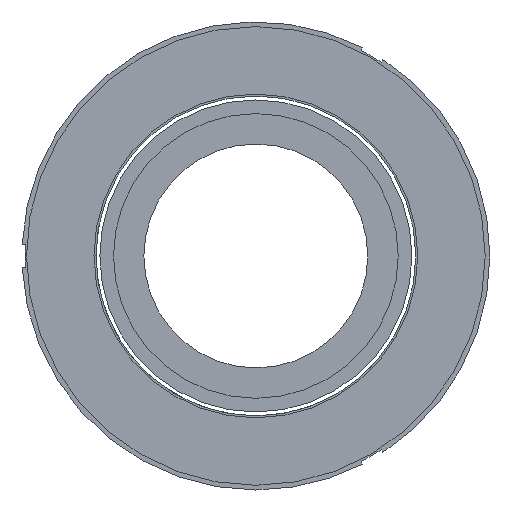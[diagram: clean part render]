
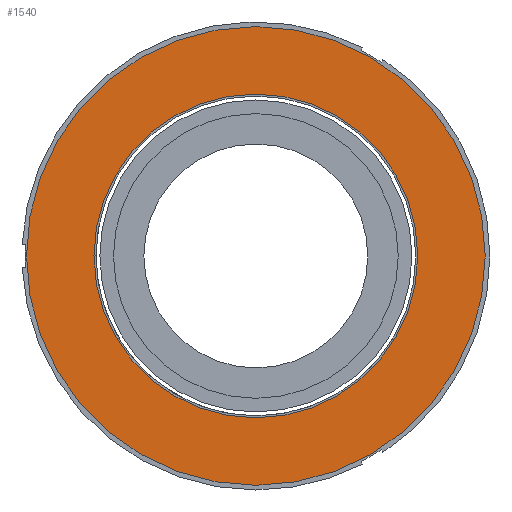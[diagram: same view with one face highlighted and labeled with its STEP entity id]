
A CAD part, front view. The second image highlights one B-rep face of the part: STEP entity #1540.
In plain terms, the highlighted planar face has unit normal (0, -1, 0).
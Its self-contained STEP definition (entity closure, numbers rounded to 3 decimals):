
#8 = DIRECTION ( 'NONE',  ( 0., 0., -1. ) ) ;
#17 = CARTESIAN_POINT ( 'NONE',  ( 0., 1.473, -29.4 ) ) ;
#115 = VERTEX_POINT ( 'NONE', #2423 ) ;
#153 = FACE_BOUND ( 'NONE', #526, .T. ) ;
#185 = DIRECTION ( 'NONE',  ( 0., 1., 0. ) ) ;
#317 = DIRECTION ( 'NONE',  ( 0., -1., 0. ) ) ;
#362 = DIRECTION ( 'NONE',  ( 0., -1., 0. ) ) ;
#384 = AXIS2_PLACEMENT_3D ( 'NONE', #2152, #362, #834 ) ;
#415 = DIRECTION ( 'NONE',  ( 0., -1., 0. ) ) ;
#459 = DIRECTION ( 'NONE',  ( 0., 0., 1. ) ) ;
#526 = EDGE_LOOP ( 'NONE', ( #1316, #1635 ) ) ;
#533 = EDGE_CURVE ( 'NONE', #1007, #1868, #869, .T. ) ;
#540 = CIRCLE ( 'NONE', #1913, 20.75 ) ;
#561 = CIRCLE ( 'NONE', #1970, 29.4 ) ;
#588 = VERTEX_POINT ( 'NONE', #2797 ) ;
#689 = AXIS2_PLACEMENT_3D ( 'NONE', #1769, #185, #459 ) ;
#694 = EDGE_CURVE ( 'NONE', #588, #115, #1334, .T. ) ;
#753 = CARTESIAN_POINT ( 'NONE',  ( 0., 1.473, 0. ) ) ;
#768 = FACE_OUTER_BOUND ( 'NONE', #2132, .T. ) ;
#834 = DIRECTION ( 'NONE',  ( 0., 0., -1. ) ) ;
#866 = DIRECTION ( 'NONE',  ( 0., 0., -1. ) ) ;
#869 = CIRCLE ( 'NONE', #2158, 29.4 ) ;
#1007 = VERTEX_POINT ( 'NONE', #1329 ) ;
#1082 = EDGE_CURVE ( 'NONE', #1868, #1007, #561, .T. ) ;
#1316 = ORIENTED_EDGE ( 'NONE', *, *, #2731, .F. ) ;
#1329 = CARTESIAN_POINT ( 'NONE',  ( 0., 1.473, 29.4 ) ) ;
#1334 = CIRCLE ( 'NONE', #384, 20.75 ) ;
#1493 = ORIENTED_EDGE ( 'NONE', *, *, #1082, .T. ) ;
#1540 = ADVANCED_FACE ( 'NONE', ( #153, #768 ), #2620, .F. ) ;
#1563 = ORIENTED_EDGE ( 'NONE', *, *, #533, .T. ) ;
#1635 = ORIENTED_EDGE ( 'NONE', *, *, #694, .F. ) ;
#1746 = CARTESIAN_POINT ( 'NONE',  ( 0., 1.473, 0. ) ) ;
#1769 = CARTESIAN_POINT ( 'NONE',  ( -20.75, 1.473, 0. ) ) ;
#1868 = VERTEX_POINT ( 'NONE', #17 ) ;
#1913 = AXIS2_PLACEMENT_3D ( 'NONE', #1746, #415, #866 ) ;
#1970 = AXIS2_PLACEMENT_3D ( 'NONE', #2022, #2036, #8 ) ;
#2022 = CARTESIAN_POINT ( 'NONE',  ( 0., 1.473, 0. ) ) ;
#2036 = DIRECTION ( 'NONE',  ( 0., -1., 0. ) ) ;
#2132 = EDGE_LOOP ( 'NONE', ( #1493, #1563 ) ) ;
#2152 = CARTESIAN_POINT ( 'NONE',  ( 0., 1.473, 0. ) ) ;
#2158 = AXIS2_PLACEMENT_3D ( 'NONE', #753, #317, #2733 ) ;
#2423 = CARTESIAN_POINT ( 'NONE',  ( 0., 1.473, -20.75 ) ) ;
#2620 = PLANE ( 'NONE',  #689 ) ;
#2731 = EDGE_CURVE ( 'NONE', #115, #588, #540, .T. ) ;
#2733 = DIRECTION ( 'NONE',  ( 0., 0., -1. ) ) ;
#2797 = CARTESIAN_POINT ( 'NONE',  ( 0., 1.473, 20.75 ) ) ;
